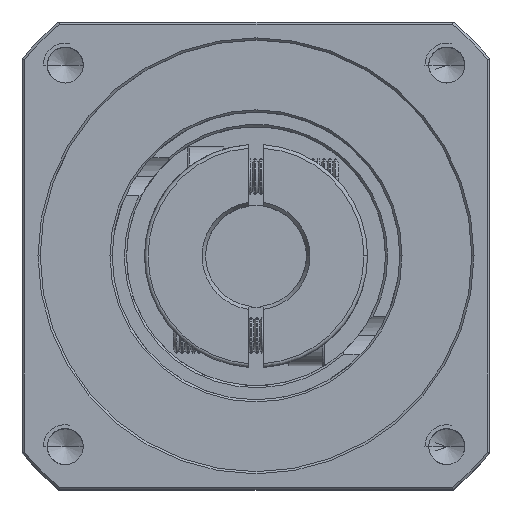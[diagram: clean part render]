
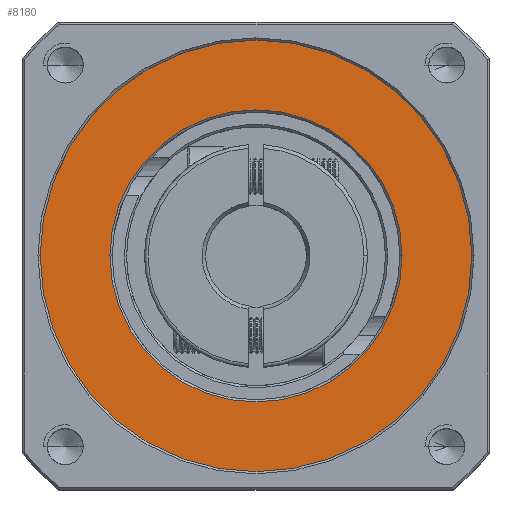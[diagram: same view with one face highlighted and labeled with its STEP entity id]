
A CAD part, top view. The second image highlights one B-rep face of the part: STEP entity #8180.
In plain terms, the highlighted planar face has unit normal (0, 0, 1).
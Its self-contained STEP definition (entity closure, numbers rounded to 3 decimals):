
#3571 = EDGE_CURVE ( 'NONE', #43853, #38946, #79503, .T. ) ;
#7017 = CARTESIAN_POINT ( 'NONE',  ( -65.47, 28.173, 12.447 ) ) ;
#7454 = CIRCLE ( 'NONE', #65257, 20.3 ) ;
#8180 = ADVANCED_FACE ( 'NONE', ( #81677, #58267 ), #69581, .T. ) ;
#9921 = ORIENTED_EDGE ( 'NONE', *, *, #57870, .T. ) ;
#13311 = VERTEX_POINT ( 'NONE', #41217 ) ;
#14867 = DIRECTION ( 'NONE',  ( 1., 0., 0. ) ) ;
#22150 = DIRECTION ( 'NONE',  ( 0., 0., -1. ) ) ;
#29019 = ORIENTED_EDGE ( 'NONE', *, *, #51921, .T. ) ;
#34159 = DIRECTION ( 'NONE',  ( 0., 0., -1. ) ) ;
#34228 = DIRECTION ( 'NONE',  ( 0., 0., 1. ) ) ;
#37912 = CIRCLE ( 'NONE', #56204, 30. ) ;
#38946 = VERTEX_POINT ( 'NONE', #78578 ) ;
#39306 = CARTESIAN_POINT ( 'NONE',  ( -65.47, 28.173, 12.447 ) ) ;
#40617 = ORIENTED_EDGE ( 'NONE', *, *, #3571, .T. ) ;
#41217 = CARTESIAN_POINT ( 'NONE',  ( -35.47, 28.173, 12.447 ) ) ;
#41883 = EDGE_LOOP ( 'NONE', ( #29019, #40617 ) ) ;
#42476 = AXIS2_PLACEMENT_3D ( 'NONE', #81448, #34228, #89318 ) ;
#43853 = VERTEX_POINT ( 'NONE', #70061 ) ;
#47180 = DIRECTION ( 'NONE',  ( 1., 0., 0. ) ) ;
#51921 = EDGE_CURVE ( 'NONE', #38946, #43853, #7454, .T. ) ;
#52948 = CIRCLE ( 'NONE', #42476, 30. ) ;
#56204 = AXIS2_PLACEMENT_3D ( 'NONE', #39306, #94338, #47180 ) ;
#56672 = ORIENTED_EDGE ( 'NONE', *, *, #68823, .T. ) ;
#57870 = EDGE_CURVE ( 'NONE', #101778, #13311, #52948, .T. ) ;
#58267 = FACE_OUTER_BOUND ( 'NONE', #100954, .T. ) ;
#61995 = DIRECTION ( 'NONE',  ( 0., 0., 1. ) ) ;
#65257 = AXIS2_PLACEMENT_3D ( 'NONE', #81371, #34159, #89249 ) ;
#68823 = EDGE_CURVE ( 'NONE', #13311, #101778, #37912, .T. ) ;
#69340 = CARTESIAN_POINT ( 'NONE',  ( -65.47, 28.173, 12.447 ) ) ;
#69581 = PLANE ( 'NONE',  #91576 ) ;
#70061 = CARTESIAN_POINT ( 'NONE',  ( -85.77, 28.173, 12.447 ) ) ;
#77255 = DIRECTION ( 'NONE',  ( 1., 0., 0. ) ) ;
#78578 = CARTESIAN_POINT ( 'NONE',  ( -45.17, 28.173, 12.447 ) ) ;
#79503 = CIRCLE ( 'NONE', #100854, 20.3 ) ;
#81371 = CARTESIAN_POINT ( 'NONE',  ( -65.47, 28.173, 12.447 ) ) ;
#81448 = CARTESIAN_POINT ( 'NONE',  ( -65.47, 28.173, 12.447 ) ) ;
#81677 = FACE_BOUND ( 'NONE', #41883, .T. ) ;
#89249 = DIRECTION ( 'NONE',  ( 1., 0., 0. ) ) ;
#89318 = DIRECTION ( 'NONE',  ( 1., 0., 0. ) ) ;
#91576 = AXIS2_PLACEMENT_3D ( 'NONE', #7017, #61995, #14867 ) ;
#94338 = DIRECTION ( 'NONE',  ( 0., 0., 1. ) ) ;
#98107 = CARTESIAN_POINT ( 'NONE',  ( -95.47, 28.173, 12.447 ) ) ;
#100854 = AXIS2_PLACEMENT_3D ( 'NONE', #69340, #22150, #77255 ) ;
#100954 = EDGE_LOOP ( 'NONE', ( #56672, #9921 ) ) ;
#101778 = VERTEX_POINT ( 'NONE', #98107 ) ;
